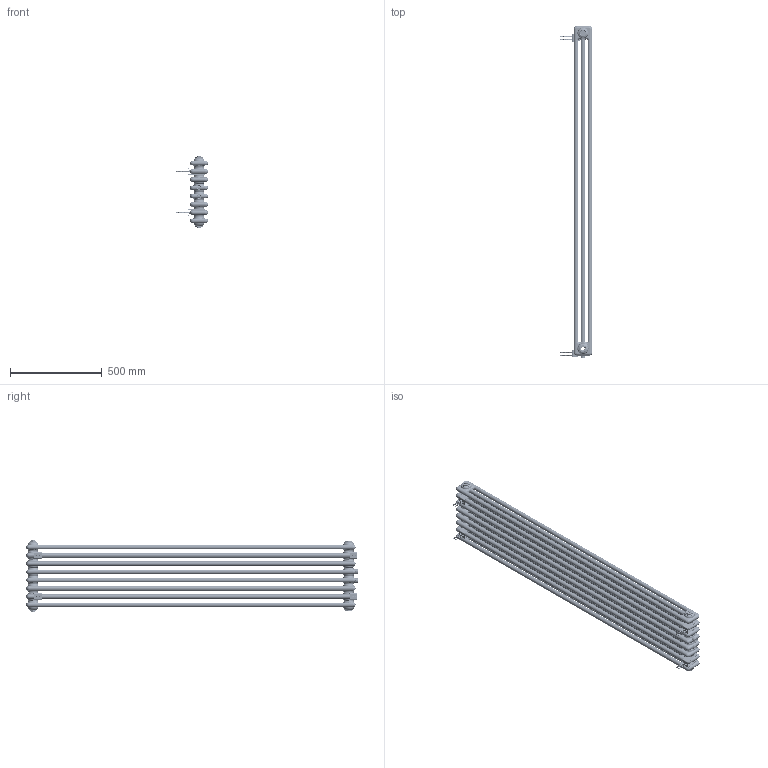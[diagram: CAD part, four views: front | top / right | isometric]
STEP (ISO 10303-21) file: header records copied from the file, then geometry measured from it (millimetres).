
FILE_DESCRIPTION(/* description */ (''),/* implementation_level */ '2;1');
FILE_NAME(/* name */ 'CL03 1800x380',/* time_stamp */ '2023-09-09T16:42:59+08:00',/* author */ (''),/* organization */ (''),/* preprocessor_version */ 'ST-DEVELOPER v9',/* originating_system */ 'UGS - NX 4.0',/* authorisation */ '');
FILE_SCHEMA (('CONFIG_CONTROL_DESIGN'));
Length unit declared in the file: millimetre
Products named in the file (1): AdmiF21Fp077
Bounding box: 176.1 x 1813 x 394 mm (x, y, z)
Volume: 4044898.2 mm3; surface area: 6619713.3 mm2
Topology: 37 solids, 37 shells, 3675 faces, 8905 edges, 5309 vertices
Faces by surface type: bspline 1075, cylinder 1049, plane 720, torus 468, cone 363
Full cylindrical faces by diameter (mm): 25 x2
Entity records: 224410 total; most frequent: CARTESIAN_POINT 147916, ORIENTED_EDGE 17778, DIRECTION 13553, EDGE_CURVE 8889, AXIS2_PLACEMENT_3D 5599, VERTEX_POINT 5311, EDGE_LOOP 3852, ADVANCED_FACE 3675
